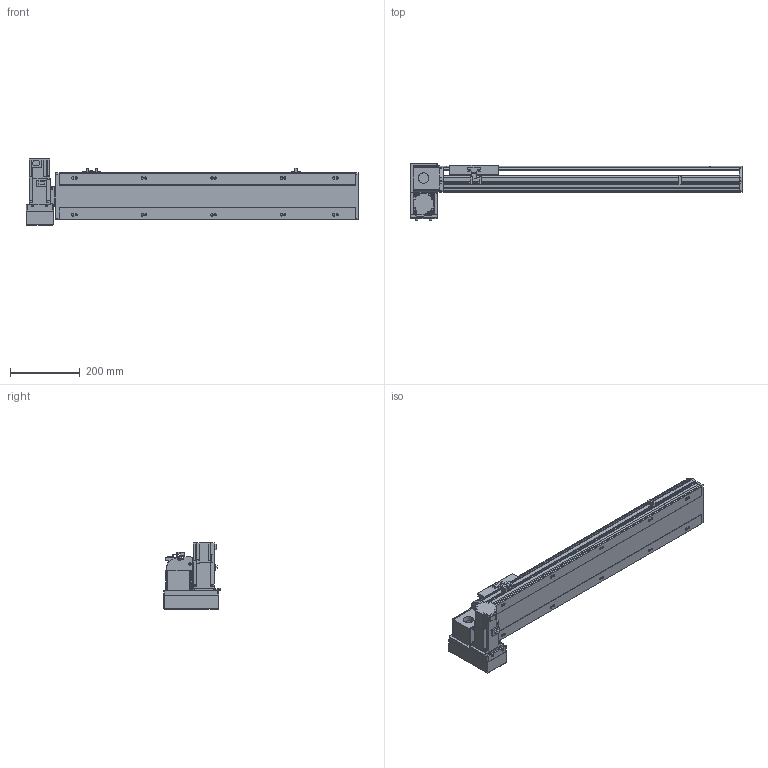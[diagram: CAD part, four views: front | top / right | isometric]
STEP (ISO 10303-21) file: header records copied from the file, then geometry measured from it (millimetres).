
FILE_DESCRIPTION( ( 'STEP AP214' ), '1' );
FILE_NAME( 'x:/temp/worker_27/temp/exporttempdir_6708_554_t6kp7/format_0/PBS140-P40-S600-LD-T40-C1-N(0).stp', '2022-06-06T05:53:07', ( 'License CC BY-ND 4.0' ), ( 'CADENAS' ), ' ', 'PARTsolutions', ' ' );
FILE_SCHEMA( ( 'AUTOMOTIVE_DESIGN { 1 0 10303 214 1 1 1 1 }' ) );
Length unit declared in the file: millimetre
Products named in the file (7): PBS140-P40-S600-LD-T40-C1-N(0); _PBS140-S600()_body; _PBS140T-LD_motors; _T40-p1; _PBS140_sliser; _PBS140_plant; _PBS140_sensor
Assembly tree (8 placements, depth 2):
  PBS140-P40-S600-LD-T40-C1-N(0)
    _PBS140-S600()_body
    _PBS140T-LD_motors
    _T40-p1
    _PBS140_sliser
    _PBS140_plant
    _PBS140_sensor  x3
Bounding box: 954 x 162 x 189.7 mm (x, y, z)
Volume: 4836703.2 mm3; surface area: 862077.7 mm2
Topology: 8 solids, 8 shells, 1027 faces, 2716 edges, 1775 vertices
Faces by surface type: plane 674, cylinder 307, cone 36, sphere 8, torus 2
Full cylindrical faces by diameter (mm): 3.242 x4, 4 x2, 4.134 x4, 4.4 x8, 4.5 x2, 4.8 x4, 4.917 x18, 5.5 x7, 6 x2, 7 x12, 7.5 x8, 8 x12, 8.5 x4, 10.5 x10, 14 x1, 30 x2, 50 x2
Entity records: 37363 total; most frequent: CARTESIAN_POINT 5747, DIRECTION 4987, ORIENTED_EDGE 4732, EDGE_CURVE 2366, AXIS2_PLACEMENT_3D 1717, VERTEX_POINT 1629, LINE 1553, VECTOR 1553
